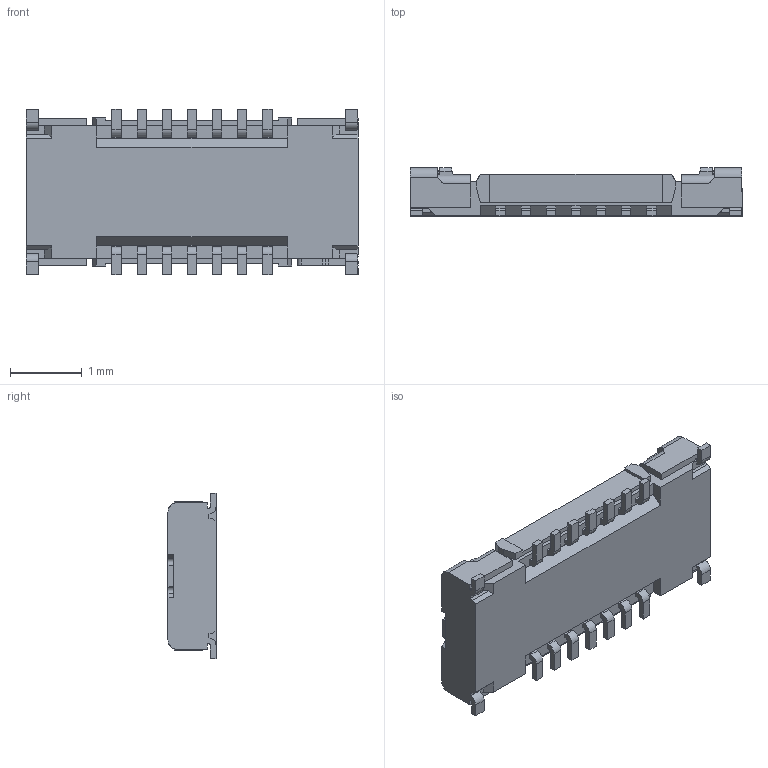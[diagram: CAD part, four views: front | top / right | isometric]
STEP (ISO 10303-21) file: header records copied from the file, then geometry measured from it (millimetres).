
FILE_DESCRIPTION (( 'STEP AP203' ), '1' );
FILE_NAME ('20709-014E-01C RECEPTACLE ASSY STEP R2 ALL.STEP', '2025-02-28T08:34:17', ( '' ), ( '' ), 'SwSTEP 2.0', 'SolidWorks 2023', '' );
FILE_SCHEMA (( 'CONFIG_CONTROL_DESIGN' ));
Length unit declared in the file: millimetre
Products named in the file (1): 20709-014E-01C RECEPTACLE ASSY STEP R2 ALL
Bounding box: 4.62 x 0.67 x 2.3 mm (x, y, z)
Volume: 3.8 mm3; surface area: 37 mm2
Topology: 1 solids, 1 shells, 398 faces, 1119 edges, 734 vertices
Faces by surface type: plane 302, cylinder 88, sphere 4, bspline 4
Entity records: 12824 total; most frequent: CARTESIAN_POINT 2484, ORIENTED_EDGE 2230, DIRECTION 2021, EDGE_CURVE 1115, VECTOR 903, LINE 903, VERTEX_POINT 734, AXIS2_PLACEMENT_3D 559
